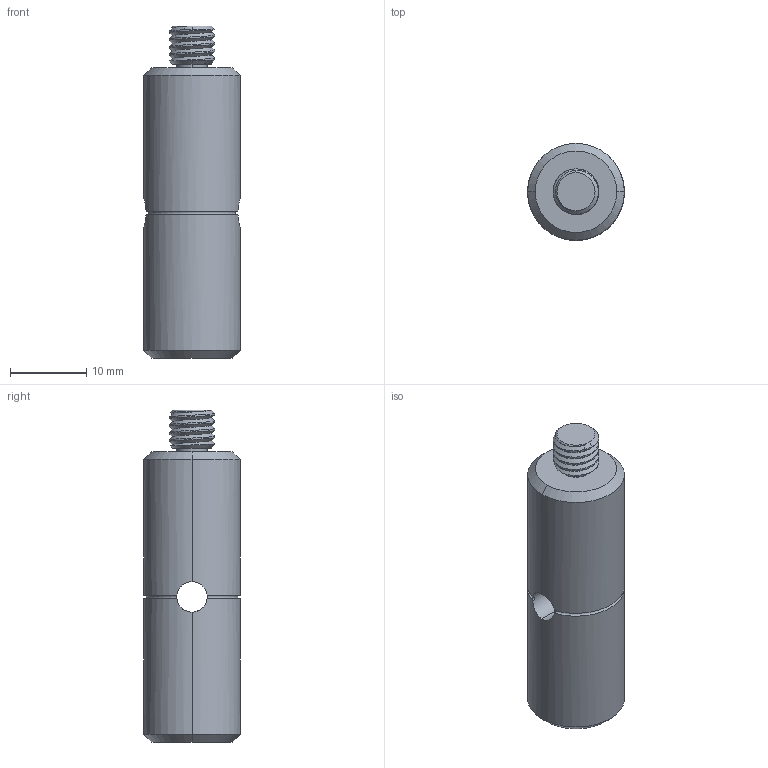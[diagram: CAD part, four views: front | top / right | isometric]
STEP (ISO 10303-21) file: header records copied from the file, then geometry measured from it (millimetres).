
FILE_DESCRIPTION((''),'2;1');
FILE_NAME('PCAH1_5-A','2023-03-14T14:25:17',('R&D'),(''),'CREO PARAMETRIC BY PTC INC, 2022162','CREO PARAMETRIC BY PTC INC, 2022162','');
FILE_SCHEMA(('CONFIG_CONTROL_DESIGN'));
Length unit declared in the file: millimetre
Products named in the file (1): PCAH1_5-A
Bounding box: 12.7 x 12.7 x 43.6 mm (x, y, z)
Volume: 4473.3 mm3; surface area: 2259.7 mm2
Topology: 1 solids, 1 shells, 69 faces, 184 edges, 116 vertices
Faces by surface type: cylinder 37, bspline 14, cone 12, plane 4, torus 2
Entity records: 4828 total; most frequent: CARTESIAN_POINT 3283, ORIENTED_EDGE 364, DIRECTION 229, EDGE_CURVE 182, VERTEX_POINT 116, B_SPLINE_CURVE_WITH_KNOTS 93, AXIS2_PLACEMENT_3D 85, EDGE_LOOP 72
